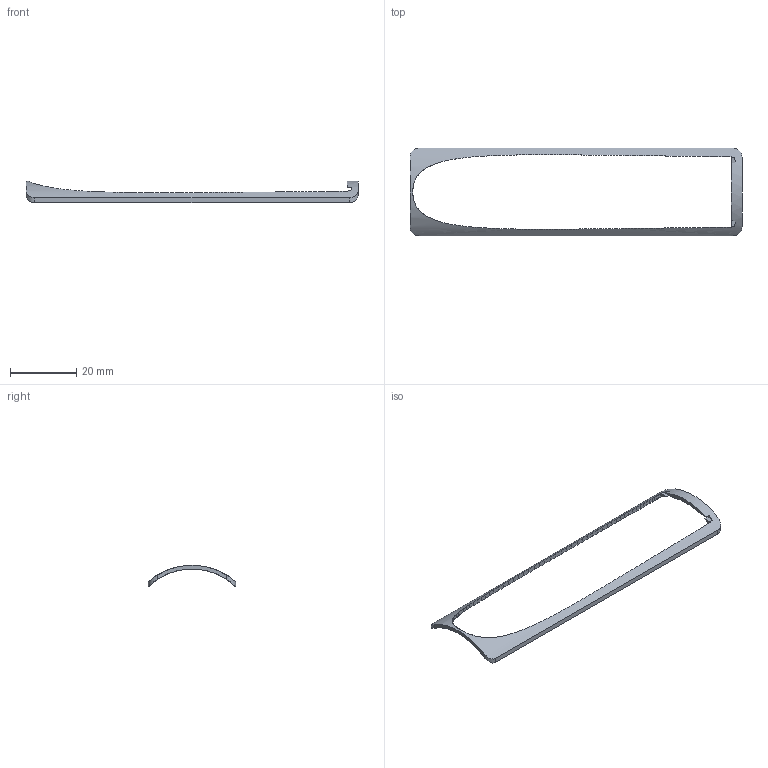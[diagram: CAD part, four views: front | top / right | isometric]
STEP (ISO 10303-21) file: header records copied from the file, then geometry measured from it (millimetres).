
FILE_DESCRIPTION(('SkyG Speed 90B - revision C6B-9 - 2026-10-11','WF-wing-window-filler'),'2;1');
FILE_NAME('WF-wing-window-filler_C6B-9','2026-10-10T23:18:29',('Author'),( 'Open CASCADE'),'Open CASCADE STEP processor 7.9','Open CASCADE 7.9' ,'Unknown');
FILE_SCHEMA(('AUTOMOTIVE_DESIGN { 1 0 10303 214 1 1 1 1 }'));
Length unit declared in the file: millimetre
Products named in the file (1): WF-wing-window-filler C6B-9
Bounding box: 100.4 x 26.4 x 6.47 mm (x, y, z)
Volume: 826.3 mm3; surface area: 2164.6 mm2
Topology: 1 solids, 1 shells, 141 faces, 416 edges, 277 vertices
Faces by surface type: plane 123, bspline 12, cylinder 6
Entity records: 24694 total; most frequent: CARTESIAN_POINT 16867, DIRECTION 1386, ORIENTED_EDGE 832, PCURVE 832, DEFINITIONAL_REPRESENTATION 832, ELLIPSE 476, EDGE_CURVE 416, SURFACE_CURVE 416
